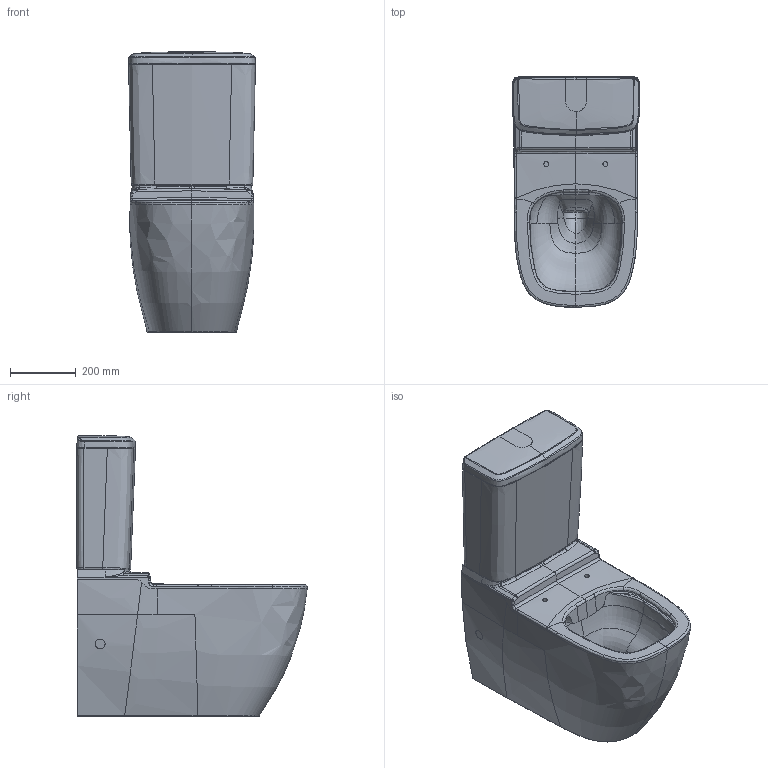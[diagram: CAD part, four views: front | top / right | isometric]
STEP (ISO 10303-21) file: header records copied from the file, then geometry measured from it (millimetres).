
FILE_DESCRIPTION(/* description */ (''),/* implementation_level */ '2;1');
FILE_NAME(/* name */ '5616R0_Antheus_STWC_mit_WK_571600.stp',/* time_stamp */ '2019-01-31T10:49:14+01:00',/* author */ (''),/* organization */ (''),/* preprocessor_version */ 'ST-DEVELOPER v16',/* originating_system */ 'SIEMENS PLM Software NX 10.0',/* authorisation */ '');
FILE_SCHEMA (('AUTOMOTIVE_DESIGN { 1 0 10303 214 3 1 1 1 }'));
Products named in the file (1): math2F08A81B6mr6
Bounding box: 385.95 x 701.12 x 853.21 mm (x, y, z)
Volume: 98177223.5 mm3; surface area: 1936173 mm2
Topology: 2 solids, 2 shells, 291 faces, 785 edges, 494 vertices
Faces by surface type: bspline 259, cylinder 16, plane 12, extrusion 2, sphere 2
Entity records: 51736 total; most frequent: CARTESIAN_POINT 46744, ORIENTED_EDGE 1550, EDGE_CURVE 775, B_SPLINE_CURVE_WITH_KNOTS 595, VERTEX_POINT 494, EDGE_LOOP 297, ADVANCED_FACE 291, FACE_OUTER_BOUND 285
